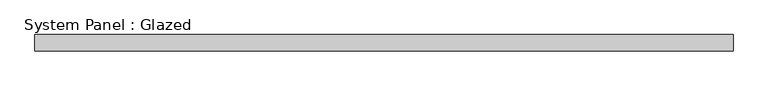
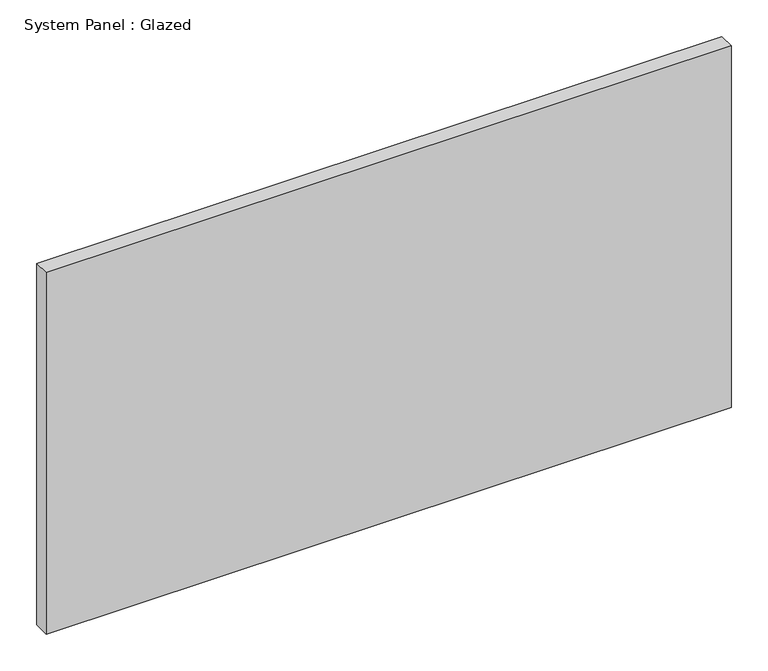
"""IFC4 building model written with IfcOpenShell, lengths in millimetres: plate geometry, System Panel : Glazed."""

from ifc_helpers import new_model, si_unit, origin, origin_with_axes, place, context, project, spatial, polyline, outline, extrude, source, transform, mapped, element, save


def system_panel_glazed_c2ca5c30(model_context):
    return source(origin(), model_context, "Body", "SweptSolid", [
        extrude(outline(polyline([(537.4999999, 24.5), (-537.4999999, 24.5), (-537.4999999, 49.5), (537.4999999, 49.5), (537.4999999, 24.5)])), origin_with_axes(), (0.0, 0.0, 1.0), 600.0),
    ])


if __name__ == "__main__":
    model = new_model("IFC4")
    model_context = context("Model", 3, world=origin())
    ifc_project = project(units=[si_unit("LENGTHUNIT", "METRE", prefix="MILLI")], contexts=[model_context])
    site = spatial("IfcSite", under=ifc_project)
    building = spatial("IfcBuilding", under=site)
    placement = place(None, origin())
    system_panel_glazed_shape = system_panel_glazed_c2ca5c30(model_context)
    element("IfcPlate", 1, ObjectType="System Panel : Glazed", at=placement, inside=building, context=model_context, shape_type="MappedRepresentation", body=[
        mapped(system_panel_glazed_shape, transform((0.0, 0.0, 0.0), x_axis=(1.0, 0.0, 0.0), y_axis=(0.0, 1.0, 0.0), z_axis=(0.0, 0.0, 1.0))),
    ])
    save(model, "model.ifc")
